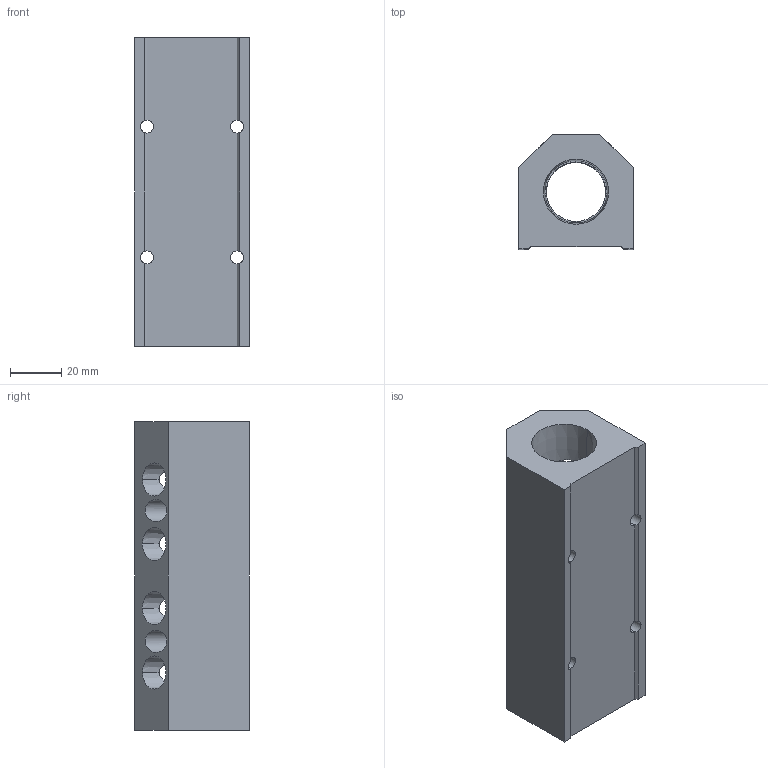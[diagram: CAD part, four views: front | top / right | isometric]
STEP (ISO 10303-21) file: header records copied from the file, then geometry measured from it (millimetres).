
FILE_DESCRIPTION (( 'STEP AP214' ), '1' );
FILE_NAME ('ALM4BCD-N4N12-120B.step', '2022-02-06T14:10:27', ( '' ), ( '' ), 'SwSTEP 2.0', 'SolidWorks 2020', '' );
FILE_SCHEMA (( 'AUTOMOTIVE_DESIGN' ));
Length unit declared in the file: millimetre
Products named in the file (1): ALM4BCD-N4N12-120B
Bounding box: 44.5 x 44.5 x 120 mm (x, y, z)
Volume: 140729.1 mm3; surface area: 35646.1 mm2
Topology: 1 solids, 1 shells, 353 faces, 968 edges, 640 vertices
Faces by surface type: plane 223, bspline 60, cone 38, cylinder 32
Entity records: 16440 total; most frequent: CARTESIAN_POINT 7626, ORIENTED_EDGE 1936, DIRECTION 1416, EDGE_CURVE 968, LINE 644, VECTOR 644, VERTEX_POINT 640, EDGE_LOOP 410
